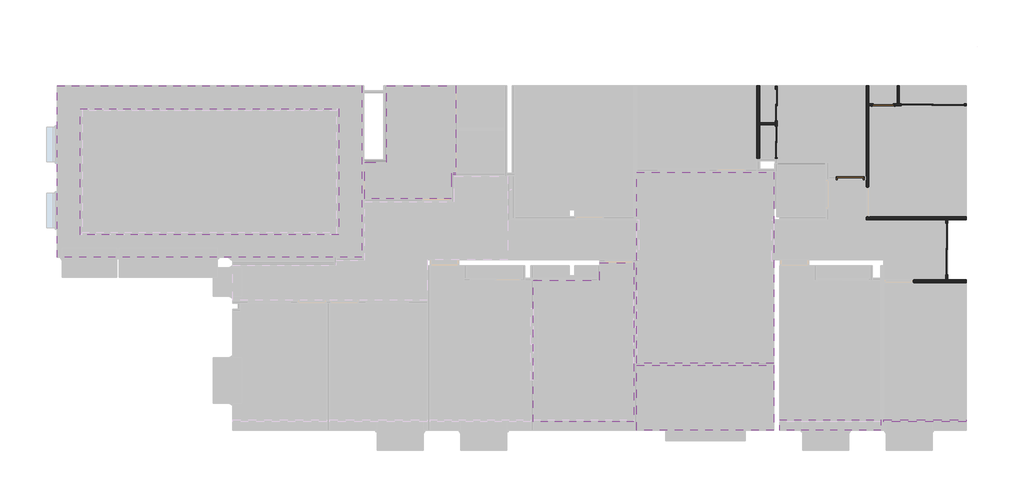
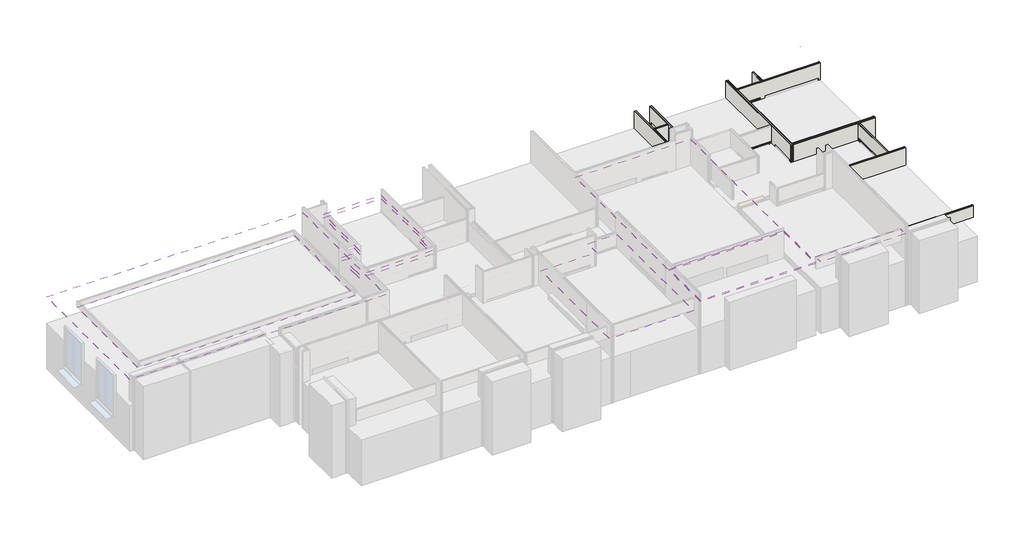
# One storey, part 4 of 6: 10 coverings, 10 walls, 6 doors.
"""IFC4 building model written with IfcOpenShell, lengths in millimetres."""

from ifc_helpers import new_model, si_unit, frame, origin, origin_with_axes, place, context, project, spatial, polyline, outline, extrude, transform, mapped, element, save
from components import door_922e83f1, door_b5ea6a65, door_9579ce56, door_bff1ae0a, door_42d56233

model = new_model("IFC4")

# Units and contexts
model_context = context("Model", 3, world=origin())
ifc_project = project(units=[si_unit("LENGTHUNIT", "METRE", prefix="MILLI")], contexts=[model_context])

# Site, building, storey
site = spatial("IfcSite", under=ifc_project)
building = spatial("IfcBuilding", under=site)
storey = spatial("IfcBuildingStorey", under=building, Name="0 Mairie RDC 0.00", Elevation=0.0)

# Coverings
placement = place(None, origin())
element("IfcCovering", 1, ObjectType="Plafonds - Plafond composé - A Plafond plaque de platre ba10", at=placement, inside=storey, context=model_context, shape_type="SweptSolid", body=[
    extrude(outline(polyline([(1777.6156007, -6633.7824715), (1777.6156007, -8731.1038426), (1127.9012584, -8731.1038426), (1127.9012584, -6633.7824715), (1777.6156007, -6633.7824715)])), frame((0.0, 0.0, 2600.0), z_axis=(0.0, 0.0, 1.0), x_axis=(1.0, 0.0, 0.0)), (0.0, 0.0, 1.0), 40.0),
    extrude(outline(polyline([(1777.6156007, -6633.7824715), (1777.6156007, -8731.1038426), (1127.9012584, -8731.1038426), (1127.9012584, -6633.7824715), (1777.6156007, -6633.7824715)])), frame((0.0, 0.0, 2640.0), z_axis=(0.0, 0.0, 1.0), x_axis=(1.0, 0.0, 0.0)), (0.0, 0.0, 1.0), 10.0),
    extrude(outline(polyline([(-20502.1562042, -13678.5662223), (-23778.2803137, -13678.5662223), (-23778.2803137, -9829.2788136), (-23520.6325674, -9829.2788136), (-23520.6325674, -9549.0775347), (-20502.1562042, -9549.0775347), (-20502.1562042, -13678.5662223)])), frame((0.0, 0.0, 2600.0), z_axis=(0.0, 0.0, 1.0), x_axis=(1.0, 0.0, 0.0)), (0.0, 0.0, 1.0), 40.0),
    extrude(outline(polyline([(-20502.1562042, -13678.5662223), (-23778.2803137, -13678.5662223), (-23778.2803137, -9829.2788136), (-23520.6325674, -9829.2788136), (-23520.6325674, -9549.0775347), (-20502.1562042, -9549.0775347), (-20502.1562042, -13678.5662223)])), frame((0.0, 0.0, 2640.0), z_axis=(0.0, 0.0, 1.0), x_axis=(1.0, 0.0, 0.0)), (0.0, 0.0, 1.0), 10.0),
    extrude(outline(polyline([(-4877.4967035, -1972.7637486), (-4877.4967035, -3257.7490792), (-5427.496701, -3257.7490792), (-5427.496701, -1972.7637486), (-4877.4967035, -1972.7637486)])), frame((0.0, 0.0, 2600.0), z_axis=(0.0, 0.0, 1.0), x_axis=(1.0, 0.0, 0.0)), (0.0, 0.0, 1.0), 40.0),
    extrude(outline(polyline([(-4877.4967035, -1972.7637486), (-4877.4967035, -3257.7490792), (-5427.496701, -3257.7490792), (-5427.496701, -1972.7637486), (-4877.4967035, -1972.7637486)])), frame((0.0, 0.0, 2640.0), z_axis=(0.0, 0.0, 1.0), x_axis=(1.0, 0.0, 0.0)), (0.0, 0.0, 1.0), 10.0),
    extrude(outline(polyline([(-4877.4967035, -3327.7490792), (-4877.4967035, -4510.805772), (-5427.496701, -4510.805772), (-5427.496701, -3327.7490792), (-4877.4967035, -3327.7490792)])), frame((0.0, 0.0, 2600.0), z_axis=(0.0, 0.0, 1.0), x_axis=(1.0, 0.0, 0.0)), (0.0, 0.0, 1.0), 40.0),
    extrude(outline(polyline([(-4877.4967035, -3327.7490792), (-4877.4967035, -4510.805772), (-5427.496701, -4510.805772), (-5427.496701, -3327.7490792), (-4877.4967035, -3327.7490792)])), frame((0.0, 0.0, 2640.0), z_axis=(0.0, 0.0, 1.0), x_axis=(1.0, 0.0, 0.0)), (0.0, 0.0, 1.0), 10.0),
    extrude(outline(polyline([(-1717.7552543, -1972.0566419), (-1717.7552543, -5137.6533676), (-3018.9176162, -5137.6533676), (-3018.9176162, -4652.7868397), (-4807.4967035, -4652.7868397), (-4807.4967035, -1972.0566419), (-1717.7552543, -1972.0566419)])), frame((0.0, 0.0, 2600.0), z_axis=(0.0, 0.0, 1.0), x_axis=(1.0, 0.0, 0.0)), (0.0, 0.0, 1.0), 40.0),
    extrude(outline(polyline([(-1717.7552543, -1972.0566419), (-1717.7552543, -5137.6533676), (-3018.9176162, -5137.6533676), (-3018.9176162, -4652.7868397), (-4807.4967035, -4652.7868397), (-4807.4967035, -1972.0566419), (-1717.7552543, -1972.0566419)])), frame((0.0, 0.0, 2640.0), z_axis=(0.0, 0.0, 1.0), x_axis=(1.0, 0.0, 0.0)), (0.0, 0.0, 1.0), 10.0),
    extrude(outline(polyline([(-634.0175894, -1972.7637486), (-634.0175894, -2602.7637486), (-1617.7552543, -2602.7637486), (-1617.7552543, -1972.7637486), (-634.0175894, -1972.7637486)])), frame((0.0, 0.0, 2600.0), z_axis=(0.0, 0.0, 1.0), x_axis=(1.0, 0.0, 0.0)), (0.0, 0.0, 1.0), 40.0),
    extrude(outline(polyline([(-634.0175894, -1972.7637486), (-634.0175894, -2602.7637486), (-1617.7552543, -2602.7637486), (-1617.7552543, -1972.7637486), (-634.0175894, -1972.7637486)])), frame((0.0, 0.0, 2640.0), z_axis=(0.0, 0.0, 1.0), x_axis=(1.0, 0.0, 0.0)), (0.0, 0.0, 1.0), 10.0),
    extrude(outline(polyline([(-1617.7552543, -2672.7637486), (1777.6156007, -2672.7637486), (1777.6156007, -6533.7824715), (-1617.7552543, -6533.7824715), (-1617.7552543, -2672.7637486)])), frame((0.0, 0.0, 2600.0), z_axis=(0.0, 0.0, 1.0), x_axis=(1.0, 0.0, 0.0)), (0.0, 0.0, 1.0), 40.0),
    extrude(outline(polyline([(-1617.7552543, -2672.7637486), (1777.6156007, -2672.7637486), (1777.6156007, -6533.7824715), (-1617.7552543, -6533.7824715), (-1617.7552543, -2672.7637486)])), frame((0.0, 0.0, 2640.0), z_axis=(0.0, 0.0, 1.0), x_axis=(1.0, 0.0, 0.0)), (0.0, 0.0, 1.0), 10.0),
    extrude(outline(polyline([(1777.6156007, -8831.1038426), (1777.6156007, -13678.5662223), (-1106.3922233, -13678.5662223), (-1106.3922233, -8831.1038426), (1777.6156007, -8831.1038426)])), frame((0.0, 0.0, 2600.0), z_axis=(0.0, 0.0, 1.0), x_axis=(1.0, 0.0, 0.0)), (0.0, 0.0, 1.0), 40.0),
    extrude(outline(polyline([(1777.6156007, -8831.1038426), (1777.6156007, -13678.5662223), (-1106.3922233, -13678.5662223), (-1106.3922233, -8831.1038426), (1777.6156007, -8831.1038426)])), frame((0.0, 0.0, 2640.0), z_axis=(0.0, 0.0, 1.0), x_axis=(1.0, 0.0, 0.0)), (0.0, 0.0, 1.0), 10.0),
    extrude(outline(polyline([(-1576.0769125, -8238.2685444), (-1576.0769125, -8681.7570094), (-3456.0406291, -8681.7570094), (-3456.0406291, -8238.2685444), (-1576.0769125, -8238.2685444)])), frame((0.0, 0.0, 2600.0), z_axis=(0.0, 0.0, 1.0), x_axis=(1.0, 0.0, 0.0)), (0.0, 0.0, 1.0), 40.0),
    extrude(outline(polyline([(-1576.0769125, -8238.2685444), (-1576.0769125, -8681.7570094), (-3456.0406291, -8681.7570094), (-3456.0406291, -8238.2685444), (-1576.0769125, -8238.2685444)])), frame((0.0, 0.0, 2640.0), z_axis=(0.0, 0.0, 1.0), x_axis=(1.0, 0.0, 0.0)), (0.0, 0.0, 1.0), 10.0),
    extrude(outline(polyline([(-3526.0406291, -8751.7570094), (-1206.3922233, -8751.7570094), (-1206.3922233, -13678.5662223), (-4727.496702, -13678.5662223), (-4727.496702, -8238.2685444), (-3526.0406291, -8238.2685444), (-3526.0406291, -8751.7570094)])), frame((0.0, 0.0, 2600.0), z_axis=(0.0, 0.0, 1.0), x_axis=(1.0, 0.0, 0.0)), (0.0, 0.0, 1.0), 40.0),
    extrude(outline(polyline([(-3526.0406291, -8751.7570094), (-1206.3922233, -8751.7570094), (-1206.3922233, -13678.5662223), (-4727.496702, -13678.5662223), (-4727.496702, -8238.2685444), (-3526.0406291, -8238.2685444), (-3526.0406291, -8751.7570094)])), frame((0.0, 0.0, 2640.0), z_axis=(0.0, 0.0, 1.0), x_axis=(1.0, 0.0, 0.0)), (0.0, 0.0, 1.0), 10.0),
    extrude(outline(polyline([(-564.0175894, -1972.7637486), (1777.6156007, -1972.7637486), (1777.6156007, -2602.7637486), (-564.0175894, -2602.7637486), (-564.0175894, -1972.7637486)])), frame((0.0, 0.0, 2600.0), z_axis=(0.0, 0.0, 1.0), x_axis=(1.0, 0.0, 0.0)), (0.0, 0.0, 1.0), 40.0),
    extrude(outline(polyline([(-564.0175894, -1972.7637486), (1777.6156007, -1972.7637486), (1777.6156007, -2602.7637486), (-564.0175894, -2602.7637486), (-564.0175894, -1972.7637486)])), frame((0.0, 0.0, 2640.0), z_axis=(0.0, 0.0, 1.0), x_axis=(1.0, 0.0, 0.0)), (0.0, 0.0, 1.0), 10.0),
    extrude(outline(polyline([(-5527.496701, -1972.7637486), (-5527.496701, -4878.2154166), (-9708.4471465, -4878.2154166), (-9708.4471465, -1972.7637486), (-5527.496701, -1972.7637486)])), frame((0.0, 0.0, 2600.0), z_axis=(0.0, 0.0, 1.0), x_axis=(1.0, 0.0, 0.0)), (0.0, 0.0, 1.0), 40.0),
    extrude(outline(polyline([(-5527.496701, -1972.7637486), (-5527.496701, -4878.2154166), (-9708.4471465, -4878.2154166), (-9708.4471465, -1972.7637486), (-5527.496701, -1972.7637486)])), frame((0.0, 0.0, 2640.0), z_axis=(0.0, 0.0, 1.0), x_axis=(1.0, 0.0, 0.0)), (0.0, 0.0, 1.0), 10.0),
    extrude(outline(polyline([(-9808.4471465, -1972.7637486), (-9808.4471465, -6532.5340392), (-13736.6269046, -6532.5340392), (-13736.6269046, -1972.7637486), (-9808.4471465, -1972.7637486)])), frame((0.0, 0.0, 2600.0), z_axis=(0.0, 0.0, 1.0), x_axis=(1.0, 0.0, 0.0)), (0.0, 0.0, 1.0), 40.0),
    extrude(outline(polyline([(-9808.4471465, -1972.7637486), (-9808.4471465, -6532.5340392), (-13736.6269046, -6532.5340392), (-13736.6269046, -1972.7637486), (-9808.4471465, -1972.7637486)])), frame((0.0, 0.0, 2640.0), z_axis=(0.0, 0.0, 1.0), x_axis=(1.0, 0.0, 0.0)), (0.0, 0.0, 1.0), 10.0),
    extrude(outline(polyline([(-11003.1086334, -8752.6130855), (-11003.1086334, -8132.7867091), (-9804.6455383, -8132.7867091), (-9804.6455383, -13678.5662223), (-13304.255006, -13678.5662223), (-13304.255006, -8752.6130855), (-11003.1086334, -8752.6130855)])), frame((0.0, 0.0, 2600.0), z_axis=(0.0, 0.0, 1.0), x_axis=(1.0, 0.0, 0.0)), (0.0, 0.0, 1.0), 40.0),
    extrude(outline(polyline([(-11003.1086334, -8752.6130855), (-11003.1086334, -8132.7867091), (-9804.6455383, -8132.7867091), (-9804.6455383, -13678.5662223), (-13304.255006, -13678.5662223), (-13304.255006, -8752.6130855), (-11003.1086334, -8752.6130855)])), frame((0.0, 0.0, 2640.0), z_axis=(0.0, 0.0, 1.0), x_axis=(1.0, 0.0, 0.0)), (0.0, 0.0, 1.0), 10.0),
    extrude(outline(polyline([(-13404.255006, -13678.5662223), (-16905.446161, -13678.5662223), (-16905.446161, -8232.7637435), (-15705.446161, -8232.7637435), (-15705.446161, -8752.779598), (-13404.255006, -8752.779598), (-13404.255006, -13678.5662223)])), frame((0.0, 0.0, 2600.0), z_axis=(0.0, 0.0, 1.0), x_axis=(1.0, 0.0, 0.0)), (0.0, 0.0, 1.0), 40.0),
    extrude(outline(polyline([(-13404.255006, -13678.5662223), (-16905.446161, -13678.5662223), (-16905.446161, -8232.7637435), (-15705.446161, -8232.7637435), (-15705.446161, -8752.779598), (-13404.255006, -8752.779598), (-13404.255006, -13678.5662223)])), frame((0.0, 0.0, 2640.0), z_axis=(0.0, 0.0, 1.0), x_axis=(1.0, 0.0, 0.0)), (0.0, 0.0, 1.0), 10.0),
    extrude(outline(polyline([(-17005.446161, -9549.0775347), (-17005.446161, -13678.5662223), (-20402.1562042, -13678.5662223), (-20402.1562042, -9549.0775347), (-17005.446161, -9549.0775347)])), frame((0.0, 0.0, 2600.0), z_axis=(0.0, 0.0, 1.0), x_axis=(1.0, 0.0, 0.0)), (0.0, 0.0, 1.0), 40.0),
    extrude(outline(polyline([(-17005.446161, -9549.0775347), (-17005.446161, -13678.5662223), (-20402.1562042, -13678.5662223), (-20402.1562042, -9549.0775347), (-17005.446161, -9549.0775347)])), frame((0.0, 0.0, 2640.0), z_axis=(0.0, 0.0, 1.0), x_axis=(1.0, 0.0, 0.0)), (0.0, 0.0, 1.0), 10.0),
    extrude(outline(polyline([(-3118.9176162, -4722.7868397), (-3118.9176162, -6533.7824715), (-4727.496702, -6533.7824715), (-4727.496702, -6233.7824715), (-4827.496702, -6233.7824715), (-4827.496702, -4722.7868397), (-3118.9176162, -4722.7868397)])), frame((0.0, 0.0, 2600.0), z_axis=(0.0, 0.0, 1.0), x_axis=(1.0, 0.0, 0.0)), (0.0, 0.0, 1.0), 40.0),
    extrude(outline(polyline([(-3118.9176162, -4722.7868397), (-3118.9176162, -6533.7824715), (-4727.496702, -6533.7824715), (-4727.496702, -6233.7824715), (-4827.496702, -6233.7824715), (-4827.496702, -4722.7868397), (-3118.9176162, -4722.7868397)])), frame((0.0, 0.0, 2640.0), z_axis=(0.0, 0.0, 1.0), x_axis=(1.0, 0.0, 0.0)), (0.0, 0.0, 1.0), 10.0),
    extrude(outline(polyline([(-11073.1086334, -8232.7637435), (-11073.1086334, -8682.6130855), (-13304.255006, -8682.6130855), (-13304.255006, -8232.7637435), (-11073.1086334, -8232.7637435)])), frame((0.0, 0.0, 2600.0), z_axis=(0.0, 0.0, 1.0), x_axis=(1.0, 0.0, 0.0)), (0.0, 0.0, 1.0), 40.0),
    extrude(outline(polyline([(-11073.1086334, -8232.7637435), (-11073.1086334, -8682.6130855), (-13304.255006, -8682.6130855), (-13304.255006, -8232.7637435), (-11073.1086334, -8232.7637435)])), frame((0.0, 0.0, 2640.0), z_axis=(0.0, 0.0, 1.0), x_axis=(1.0, 0.0, 0.0)), (0.0, 0.0, 1.0), 10.0),
    extrude(outline(polyline([(-13671.849822, -8232.7637435), (-13671.849822, -8682.779598), (-15635.446161, -8682.779598), (-15635.446161, -8232.7637435), (-13671.849822, -8232.7637435)])), frame((0.0, 0.0, 2600.0), z_axis=(0.0, 0.0, 1.0), x_axis=(1.0, 0.0, 0.0)), (0.0, 0.0, 1.0), 40.0),
    extrude(outline(polyline([(-13671.849822, -8232.7637435), (-13671.849822, -8682.779598), (-15635.446161, -8682.779598), (-15635.446161, -8232.7637435), (-13671.849822, -8232.7637435)])), frame((0.0, 0.0, 2640.0), z_axis=(0.0, 0.0, 1.0), x_axis=(1.0, 0.0, 0.0)), (0.0, 0.0, 1.0), 10.0),
])
element("IfcCovering", 2, ObjectType="Plafonds - Plafond composé - A Plafond plaque de platre ba10 (1)", at=placement, inside=storey, context=model_context, shape_type="SweptSolid", body=[
    extrude(outline(polyline([(-4927.496702, -4978.2154166), (-4927.496702, -11628.5833837), (-9708.4471465, -11628.5833837), (-9708.4471465, -4978.2154166), (-4927.496702, -4978.2154166)])), frame((0.0, 0.0, 3150.0), z_axis=(0.0, 0.0, 1.0), x_axis=(1.0, 0.0, 0.0)), (0.0, 0.0, 1.0), 40.0),
    extrude(outline(polyline([(-4927.496702, -4978.2154166), (-4927.496702, -11628.5833837), (-9708.4471465, -11628.5833837), (-9708.4471465, -4978.2154166), (-4927.496702, -4978.2154166)])), frame((0.0, 0.0, 3190.0), z_axis=(0.0, 0.0, 1.0), x_axis=(1.0, 0.0, 0.0)), (0.0, 0.0, 1.0), 10.0),
])
element("IfcCovering", 3, ObjectType="Plafonds - Plafond composé - A Plafond plaque de platre ba10 (2)", at=placement, inside=storey, context=model_context, shape_type="SweptSolid", body=[
    extrude(outline(polyline([(-18412.1823363, -1972.7637486), (-16015.9503686, -1972.7637486), (-16015.9503686, -5069.9219201), (-16166.6269046, -5069.9219201), (-16166.6269046, -5912.7637435), (-19182.1823363, -5912.7637435), (-19182.1823363, -4642.5867558), (-18412.1823363, -4642.5867558), (-18412.1823363, -1972.7637486)])), frame((0.0, 0.0, 2750.0), z_axis=(0.0, 0.0, 1.0), x_axis=(1.0, 0.0, 0.0)), (0.0, 0.0, 1.0), 40.0),
    extrude(outline(polyline([(-18412.1823363, -1972.7637486), (-16015.9503686, -1972.7637486), (-16015.9503686, -5069.9219201), (-16166.6269046, -5069.9219201), (-16166.6269046, -5912.7637435), (-19182.1823363, -5912.7637435), (-19182.1823363, -4642.5867558), (-18412.1823363, -4642.5867558), (-18412.1823363, -1972.7637486)])), frame((0.0, 0.0, 2790.0), z_axis=(0.0, 0.0, 1.0), x_axis=(1.0, 0.0, 0.0)), (0.0, 0.0, 1.0), 10.0),
])
element("IfcCovering", 4, ObjectType="Plafonds - Plafond composé - A Plafond plaque de platre ba10 (3)", at=placement, inside=storey, context=model_context, shape_type="SweptSolid", body=[
    extrude(outline(polyline([(-18412.1823363, -1972.7637486), (-16015.9503686, -1972.7637486), (-16015.9503686, -5069.9219201), (-16166.6269046, -5069.9219201), (-16166.6269046, -5912.7637435), (-19182.1823363, -5912.7637435), (-19182.1823363, -4642.5867558), (-18412.1823363, -4642.5867558), (-18412.1823363, -1972.7637486)])), frame((0.0, 0.0, 2750.0), z_axis=(0.0, 0.0, 1.0), x_axis=(1.0, 0.0, 0.0)), (0.0, 0.0, 1.0), 40.0),
    extrude(outline(polyline([(-18412.1823363, -1972.7637486), (-16015.9503686, -1972.7637486), (-16015.9503686, -5069.9219201), (-16166.6269046, -5069.9219201), (-16166.6269046, -5912.7637435), (-19182.1823363, -5912.7637435), (-19182.1823363, -4642.5867558), (-18412.1823363, -4642.5867558), (-18412.1823363, -1972.7637486)])), frame((0.0, 0.0, 2790.0), z_axis=(0.0, 0.0, 1.0), x_axis=(1.0, 0.0, 0.0)), (0.0, 0.0, 1.0), 10.0),
    extrude(outline(polyline([(-18512.1823363, -2222.7637486), (-18512.1823363, -4543.7637486), (-19212.1823363, -4543.7637486), (-19212.1823363, -2222.7637486), (-18512.1823363, -2222.7637486)])), frame((0.0, 0.0, 2750.0), z_axis=(0.0, 0.0, 1.0), x_axis=(1.0, 0.0, 0.0)), (0.0, 0.0, 1.0), 40.0),
    extrude(outline(polyline([(-18512.1823363, -2222.7637486), (-18512.1823363, -4543.7637486), (-19212.1823363, -4543.7637486), (-19212.1823363, -2222.7637486), (-18512.1823363, -2222.7637486)])), frame((0.0, 0.0, 2790.0), z_axis=(0.0, 0.0, 1.0), x_axis=(1.0, 0.0, 0.0)), (0.0, 0.0, 1.0), 10.0),
])
element("IfcCovering", 5, ObjectType="Plafonds - Plafond composé - A Plafond plaque de platre ba10 (4)", at=placement, inside=storey, context=model_context, shape_type="SweptSolid", body=[
    extrude(outline(polyline([(-14296.7760862, -3451.3428344), (-15945.9503686, -3451.3428344), (-15945.9503686, -1972.7637486), (-14296.7760862, -1972.7637486), (-14296.7760862, -3451.3428344)])), frame((0.0, 0.0, 2600.0), z_axis=(0.0, 0.0, 1.0), x_axis=(1.0, 0.0, 0.0)), (0.0, 0.0, 1.0), 40.0),
    extrude(outline(polyline([(-14296.7760862, -3451.3428344), (-15945.9503686, -3451.3428344), (-15945.9503686, -1972.7637486), (-14296.7760862, -1972.7637486), (-14296.7760862, -3451.3428344)])), frame((0.0, 0.0, 2640.0), z_axis=(0.0, 0.0, 1.0), x_axis=(1.0, 0.0, 0.0)), (0.0, 0.0, 1.0), 10.0),
    extrude(outline(polyline([(-16015.9503686, -1972.7637486), (-16015.9503686, -5019.9219201), (-16166.6269046, -5019.9219201), (-16166.6269046, -5912.7637435), (-19182.1823363, -5912.7637435), (-19182.1823363, -4642.5867558), (-18412.1823363, -4642.5867558), (-18412.1823363, -1972.7637486), (-16015.9503686, -1972.7637486)])), frame((0.0, 0.0, 2600.0), z_axis=(0.0, 0.0, 1.0), x_axis=(1.0, 0.0, 0.0)), (0.0, 0.0, 1.0), 40.0),
    extrude(outline(polyline([(-16015.9503686, -1972.7637486), (-16015.9503686, -5019.9219201), (-16166.6269046, -5019.9219201), (-16166.6269046, -5912.7637435), (-19182.1823363, -5912.7637435), (-19182.1823363, -4642.5867558), (-18412.1823363, -4642.5867558), (-18412.1823363, -1972.7637486), (-16015.9503686, -1972.7637486)])), frame((0.0, 0.0, 2640.0), z_axis=(0.0, 0.0, 1.0), x_axis=(1.0, 0.0, 0.0)), (0.0, 0.0, 1.0), 10.0),
    extrude(outline(polyline([(-15945.9503686, -3521.3428344), (-14296.7760862, -3521.3428344), (-14296.7760862, -5019.9219201), (-15945.9503686, -5019.9219201), (-15945.9503686, -3521.3428344)])), frame((0.0, 0.0, 2600.0), z_axis=(0.0, 0.0, 1.0), x_axis=(1.0, 0.0, 0.0)), (0.0, 0.0, 1.0), 40.0),
    extrude(outline(polyline([(-15945.9503686, -3521.3428344), (-14296.7760862, -3521.3428344), (-14296.7760862, -5019.9219201), (-15945.9503686, -5019.9219201), (-15945.9503686, -3521.3428344)])), frame((0.0, 0.0, 2640.0), z_axis=(0.0, 0.0, 1.0), x_axis=(1.0, 0.0, 0.0)), (0.0, 0.0, 1.0), 10.0),
])
element("IfcCovering", 6, ObjectType="Plafonds - Plafond composé - A Plafond plaque de platre ba10 (6)", at=placement, inside=storey, context=model_context, shape_type="SweptSolid", body=[
    extrude(outline(polyline([(-29087.0149756, -7153.0211289), (-29087.0149756, -2772.7637486), (-20082.1823363, -2772.7637486), (-20082.1823363, -7153.0211289), (-29087.0149756, -7153.0211289)])), frame((0.0, 0.0, 2900.0), z_axis=(0.0, 0.0, 1.0), x_axis=(1.0, 0.0, 0.0)), (0.0, 0.0, 1.0), 40.0),
    extrude(outline(polyline([(-29087.0149756, -7153.0211289), (-29087.0149756, -2772.7637486), (-20082.1823363, -2772.7637486), (-20082.1823363, -7153.0211289), (-29087.0149756, -7153.0211289)])), frame((0.0, 0.0, 2940.0), z_axis=(0.0, 0.0, 1.0), x_axis=(1.0, 0.0, 0.0)), (0.0, 0.0, 1.0), 10.0),
])
element("IfcCovering", 7, ObjectType="Plafonds - Plafond composé - A Plafond plaque de platre ba10 (7)", at=placement, inside=storey, context=model_context, shape_type="SweptSolid", body=[
    extrude(outline(polyline([(-19282.1823363, -1972.7637486), (-19282.1823363, -7952.7608719), (-29887.0149756, -7952.7608719), (-29887.0149756, -1972.7637486), (-19282.1823363, -1972.7637486)]), holes=[polyline([(-20082.1823363, -2772.7637486), (-29087.0149756, -2772.7637486), (-29087.0149756, -7152.7608719), (-20082.1823363, -7152.7608719), (-20082.1823363, -2772.7637486)])]), frame((0.0, 0.0, 3150.0), z_axis=(0.0, 0.0, 1.0), x_axis=(1.0, 0.0, 0.0)), (0.0, 0.0, 1.0), 40.0),
    extrude(outline(polyline([(-19282.1823363, -1972.7637486), (-19282.1823363, -7952.7608719), (-29887.0149756, -7952.7608719), (-29887.0149756, -1972.7637486), (-19282.1823363, -1972.7637486)]), holes=[polyline([(-20082.1823363, -2772.7637486), (-29087.0149756, -2772.7637486), (-29087.0149756, -7152.7608719), (-20082.1823363, -7152.7608719), (-20082.1823363, -2772.7637486)])]), frame((0.0, 0.0, 3190.0), z_axis=(0.0, 0.0, 1.0), x_axis=(1.0, 0.0, 0.0)), (0.0, 0.0, 1.0), 10.0),
])
element("IfcCovering", 8, ObjectType="Plafonds - Plafond composé - A Plafond plaque de platre ba10 (8)", at=placement, inside=storey, context=model_context, shape_type="SweptSolid", body=[
    extrude(outline(polyline([(1777.6156007, -13978.5662223), (-1106.3922233, -13978.5662223), (-1106.3922233, -13608.5662223), (1777.6156007, -13608.5662223), (1777.6156007, -13978.5662223)])), frame((0.0, 0.0, 3150.0), z_axis=(0.0, 0.0, 1.0), x_axis=(1.0, 0.0, 0.0)), (0.0, 0.0, 1.0), 40.0),
    extrude(outline(polyline([(1777.6156007, -13978.5662223), (-1106.3922233, -13978.5662223), (-1106.3922233, -13608.5662223), (1777.6156007, -13608.5662223), (1777.6156007, -13978.5662223)])), frame((0.0, 0.0, 3190.0), z_axis=(0.0, 0.0, 1.0), x_axis=(1.0, 0.0, 0.0)), (0.0, 0.0, 1.0), 10.0),
    extrude(outline(polyline([(-20502.1562042, -13978.5662223), (-23778.2803137, -13978.5662223), (-23778.2803137, -13608.5662223), (-20502.1562042, -13608.5662223), (-20502.1562042, -13978.5662223)])), frame((0.0, 0.0, 3150.0), z_axis=(0.0, 0.0, 1.0), x_axis=(1.0, 0.0, 0.0)), (0.0, 0.0, 1.0), 40.0),
    extrude(outline(polyline([(-20502.1562042, -13978.5662223), (-23778.2803137, -13978.5662223), (-23778.2803137, -13608.5662223), (-20502.1562042, -13608.5662223), (-20502.1562042, -13978.5662223)])), frame((0.0, 0.0, 3190.0), z_axis=(0.0, 0.0, 1.0), x_axis=(1.0, 0.0, 0.0)), (0.0, 0.0, 1.0), 10.0),
    extrude(outline(polyline([(-17005.446161, -13978.5662223), (-20402.1562042, -13978.5662223), (-20402.1562042, -13608.5662223), (-17005.446161, -13608.5662223), (-17005.446161, -13978.5662223)])), frame((0.0, 0.0, 3150.0), z_axis=(0.0, 0.0, 1.0), x_axis=(1.0, 0.0, 0.0)), (0.0, 0.0, 1.0), 40.0),
    extrude(outline(polyline([(-17005.446161, -13978.5662223), (-20402.1562042, -13978.5662223), (-20402.1562042, -13608.5662223), (-17005.446161, -13608.5662223), (-17005.446161, -13978.5662223)])), frame((0.0, 0.0, 3190.0), z_axis=(0.0, 0.0, 1.0), x_axis=(1.0, 0.0, 0.0)), (0.0, 0.0, 1.0), 10.0),
    extrude(outline(polyline([(-13404.255006, -13978.5662223), (-16905.446161, -13978.5662223), (-16905.446161, -13608.5662223), (-13404.255006, -13608.5662223), (-13404.255006, -13978.5662223)])), frame((0.0, 0.0, 3150.0), z_axis=(0.0, 0.0, 1.0), x_axis=(1.0, 0.0, 0.0)), (0.0, 0.0, 1.0), 40.0),
    extrude(outline(polyline([(-13404.255006, -13978.5662223), (-16905.446161, -13978.5662223), (-16905.446161, -13608.5662223), (-13404.255006, -13608.5662223), (-13404.255006, -13978.5662223)])), frame((0.0, 0.0, 3190.0), z_axis=(0.0, 0.0, 1.0), x_axis=(1.0, 0.0, 0.0)), (0.0, 0.0, 1.0), 10.0),
    extrude(outline(polyline([(-9804.6455383, -13978.5662223), (-13304.255006, -13978.5662223), (-13304.255006, -13608.5662223), (-9804.6455383, -13608.5662223), (-9804.6455383, -13978.5662223)])), frame((0.0, 0.0, 3150.0), z_axis=(0.0, 0.0, 1.0), x_axis=(1.0, 0.0, 0.0)), (0.0, 0.0, 1.0), 40.0),
    extrude(outline(polyline([(-9804.6455383, -13978.5662223), (-13304.255006, -13978.5662223), (-13304.255006, -13608.5662223), (-9804.6455383, -13608.5662223), (-9804.6455383, -13978.5662223)])), frame((0.0, 0.0, 3190.0), z_axis=(0.0, 0.0, 1.0), x_axis=(1.0, 0.0, 0.0)), (0.0, 0.0, 1.0), 10.0),
    extrude(outline(polyline([(-1206.3922233, -13978.5662223), (-4727.496702, -13978.5662223), (-4727.496702, -13608.5662223), (-1206.3922233, -13608.5662223), (-1206.3922233, -13978.5662223)])), frame((0.0, 0.0, 3150.0), z_axis=(0.0, 0.0, 1.0), x_axis=(1.0, 0.0, 0.0)), (0.0, 0.0, 1.0), 40.0),
    extrude(outline(polyline([(-1206.3922233, -13978.5662223), (-4727.496702, -13978.5662223), (-4727.496702, -13608.5662223), (-1206.3922233, -13608.5662223), (-1206.3922233, -13978.5662223)])), frame((0.0, 0.0, 3190.0), z_axis=(0.0, 0.0, 1.0), x_axis=(1.0, 0.0, 0.0)), (0.0, 0.0, 1.0), 10.0),
])
element("IfcCovering", 9, ObjectType="Plafonds - Plafond composé - A Plafond plaque de platre ba10 (9)", at=placement, inside=storey, context=model_context, shape_type="SweptSolid", body=[
    extrude(outline(polyline([(-9704.6455383, -13978.5662223), (-9704.6455383, -11698.5833837), (-4927.496702, -11698.5833837), (-4927.496702, -13978.5662223), (-9704.6455383, -13978.5662223)])), frame((0.0, 0.0, 3150.0), z_axis=(0.0, 0.0, 1.0), x_axis=(1.0, 0.0, 0.0)), (0.0, 0.0, 1.0), 40.0),
    extrude(outline(polyline([(-9704.6455383, -13978.5662223), (-9704.6455383, -11698.5833837), (-4927.496702, -11698.5833837), (-4927.496702, -13978.5662223), (-9704.6455383, -13978.5662223)])), frame((0.0, 0.0, 3190.0), z_axis=(0.0, 0.0, 1.0), x_axis=(1.0, 0.0, 0.0)), (0.0, 0.0, 1.0), 10.0),
])
element("IfcCovering", 10, ObjectType="Plafonds - Plafond composé - A Plafond plaque de platre ba10 (10)", at=placement, inside=storey, context=model_context, shape_type="SweptSolid", body=[
    extrude(outline(polyline([(-4927.496702, -11698.5833837), (-4927.496702, -13978.5662223), (-9704.6455383, -13978.5662223), (-9704.6455383, -11698.5833837), (-4927.496702, -11698.5833837)])), frame((0.0, 0.0, 3200.0), z_axis=(0.0, 0.0, 1.0), x_axis=(1.0, 0.0, 0.0)), (0.0, 0.0, 1.0), 40.0),
    extrude(outline(polyline([(-4927.496702, -11698.5833837), (-4927.496702, -13978.5662223), (-9704.6455383, -13978.5662223), (-9704.6455383, -11698.5833837), (-4927.496702, -11698.5833837)])), frame((0.0, 0.0, 3240.0), z_axis=(0.0, 0.0, 1.0), x_axis=(1.0, 0.0, 0.0)), (0.0, 0.0, 1.0), 10.0),
])

# Doors
door_shape = door_922e83f1(model_context)
element("IfcDoor", 11, ObjectType="Portes - Int. Simple - PP (0.89m x 2.04m) (1)", at=placement, inside=storey, context=model_context, shape_type="MappedRepresentation", body=[
    mapped(door_shape, transform((-1697.7552543, -5137.6533676, 0.0), x_axis=(-1.0, 0.0, 0.0), y_axis=(0.0, -1.0, 0.0), z_axis=(0.0, 0.0, 1.0))),
])
door_2_shape = door_b5ea6a65(model_context)
element("IfcDoor", 12, ObjectType="Portes - Placard coulissante - 2 panneaux - Placard coulissante - 2 panneaux 1.80", at=placement, inside=storey, context=model_context, shape_type="MappedRepresentation", body=[
    mapped(door_2_shape, transform((1057.9012584, -6757.443157, 0.0), x_axis=(0.0, -1.0, 0.0), y_axis=(1.0, 0.0, 0.0), z_axis=(0.0, 0.0, 1.0))),
])
door_3_shape = door_9579ce56(model_context)
element("IfcDoor", 13, ObjectType="Portes - Placard coulissante - 2 panneaux - Placard coulissante - 2 panneaux 2.20", at=placement, inside=storey, context=model_context, shape_type="MappedRepresentation", body=[
    mapped(door_3_shape, transform((1700.9824106, -2602.7637486, 0.0), x_axis=(-1.0, 0.0, 0.0), y_axis=(0.0, -1.0, 0.0), z_axis=(0.0, 0.0, 1.0))),
])
door_4_shape = door_bff1ae0a(model_context)
element("IfcDoor", 14, ObjectType="Portes - Int. Simple - PP (0.73m x 2.04m)", at=placement, inside=storey, context=model_context, shape_type="MappedRepresentation", body=[
    mapped(door_4_shape, transform((-1595.8864219, -2672.7637486, 0.0), x_axis=(1.0, 0.0, 0.0), y_axis=(0.0, 1.0, 0.0), z_axis=(0.0, 0.0, 1.0))),
])
door_5_shape = door_42d56233(model_context)
element("IfcDoor", 15, ObjectType="Portes - Placard coulissante - 2 panneaux - Placard coulissante - 2 panneaux 1.10", at=placement, inside=storey, context=model_context, shape_type="MappedRepresentation", body=[
    mapped(door_5_shape, transform((-4807.4967035, -3189.805772, 0.0), x_axis=(0.0, 1.0, 0.0), y_axis=(-1.0, 0.0, 0.0), z_axis=(0.0, 0.0, 1.0))),
])
element("IfcDoor", 16, ObjectType="Portes - Placard coulissante - 2 panneaux - Placard coulissante - 2 panneaux 1.10", at=placement, inside=storey, context=model_context, shape_type="MappedRepresentation", body=[
    mapped(door_5_shape, transform((-4877.4967035, -3377.5549021, 0.0), x_axis=(0.0, -1.0, 0.0), y_axis=(1.0, 0.0, 0.0), z_axis=(0.0, 0.0, 1.0))),
])

# Walls
element("IfcWall", 17, ObjectType="Murs - Mur de base - A cloison placostil 98 sèche", at=placement, inside=storey, context=model_context, shape_type="SweptSolid", body=[
    extrude(outline(polyline([(-5527.496701, -4510.805772), (-5527.496701, -1972.7637486), (-5514.996701, -1972.7637486), (-5514.996701, -4510.805772), (-5527.496701, -4510.805772)])), origin_with_axes(), (0.0, 0.0, 1.0), 2750.0),
    extrude(outline(polyline([(-5514.996701, -4510.805772), (-5514.996701, -1972.7637486), (-5502.496701, -1972.7637486), (-5502.496701, -4510.805772), (-5514.996701, -4510.805772)])), origin_with_axes(), (0.0, 0.0, 1.0), 2750.0),
    extrude(outline(polyline([(-5502.496701, -4510.805772), (-5502.496701, -1972.7637486), (-5452.496701, -1972.7637486), (-5452.496701, -4510.805772), (-5502.496701, -4510.805772)])), origin_with_axes(), (0.0, 0.0, 1.0), 2750.0),
    extrude(outline(polyline([(-5452.496701, -4510.805772), (-5452.496701, -1972.7637486), (-5439.996701, -1972.7637486), (-5439.996701, -4510.805772), (-5452.496701, -4510.805772)])), origin_with_axes(), (0.0, 0.0, 1.0), 2750.0),
    extrude(outline(polyline([(-5439.996701, -4510.805772), (-5439.996701, -1972.7637486), (-5427.496701, -1972.7637486), (-5427.496701, -4510.805772), (-5439.996701, -4510.805772)])), origin_with_axes(), (0.0, 0.0, 1.0), 2750.0),
])
element("IfcWall", 18, ObjectType="Murs - Mur de base - A cloison placostil 72 sèche", at=placement, inside=storey, context=model_context, shape_type="SweptSolid", body=[
    extrude(outline(polyline([(-4510.805772, 2750.0), (-1987.805772, 2750.0), (-1987.805772, 0.0), (-2089.805772, 0.0), (-2089.805772, 2100.0), (-3189.805772, 2100.0), (-3189.805772, 0.0), (-3377.5549021, 0.0), (-3377.5549021, 2100.0), (-4477.5549021, 2100.0), (-4477.5549021, 0.0), (-4510.805772, 0.0), (-4510.805772, 2750.0)])), frame((-4877.4967035, 0.0, 0.0), z_axis=(1.0, 0.0, 0.0), x_axis=(0.0, 1.0, 0.0)), (0.0, 0.0, 1.0), 10.0),
    extrude(outline(polyline([(-4510.805772, 2750.0), (-1987.805772, 2750.0), (-1987.805772, 0.0), (-2089.805772, 0.0), (-2089.805772, 2100.0), (-3189.805772, 2100.0), (-3189.805772, 0.0), (-3377.5549021, 0.0), (-3377.5549021, 2100.0), (-4477.5549021, 2100.0), (-4477.5549021, 0.0), (-4510.805772, 0.0), (-4510.805772, 2750.0)])), frame((-4867.4967035, 0.0, 0.0), z_axis=(1.0, 0.0, 0.0), x_axis=(0.0, 1.0, 0.0)), (0.0, 0.0, 1.0), 50.0),
    extrude(outline(polyline([(-4510.805772, 2750.0), (-1987.805772, 2750.0), (-1987.805772, 0.0), (-2089.805772, 0.0), (-2089.805772, 2100.0), (-3189.805772, 2100.0), (-3189.805772, 0.0), (-3377.5549021, 0.0), (-3377.5549021, 2100.0), (-4477.5549021, 2100.0), (-4477.5549021, 0.0), (-4510.805772, 0.0), (-4510.805772, 2750.0)])), frame((-4817.4967035, 0.0, 0.0), z_axis=(1.0, 0.0, 0.0), x_axis=(0.0, 1.0, 0.0)), (0.0, 0.0, 1.0), 10.0),
])
element("IfcWall", 19, ObjectType="Murs - Mur de base - A cloison placostil 98 sèche", at=placement, inside=storey, context=model_context, shape_type="SweptSolid", body=[
    extrude(outline(polyline([(-6633.7824715, 2750.0), (-1972.7637486, 2750.0), (-1972.7637486, 0.0), (-5518.7824715, 0.0), (-5518.7824715, 2075.0), (-6518.7824715, 2075.0), (-6518.7824715, 0.0), (-6633.7824715, 0.0), (-6633.7824715, 2750.0)])), frame((-1717.7552543, 0.0, 0.0), z_axis=(1.0, 0.0, 0.0), x_axis=(0.0, 1.0, 0.0)), (0.0, 0.0, 1.0), 12.5),
    extrude(outline(polyline([(-6633.7824715, 2750.0), (-1972.7637486, 2750.0), (-1972.7637486, 0.0), (-5518.7824715, 0.0), (-5518.7824715, 2075.0), (-6518.7824715, 2075.0), (-6518.7824715, 0.0), (-6633.7824715, 0.0), (-6633.7824715, 2750.0)])), frame((-1705.2552543, 0.0, 0.0), z_axis=(1.0, 0.0, 0.0), x_axis=(0.0, 1.0, 0.0)), (0.0, 0.0, 1.0), 12.5),
    extrude(outline(polyline([(-6633.7824715, 2750.0), (-1972.7637486, 2750.0), (-1972.7637486, 0.0), (-5518.7824715, 0.0), (-5518.7824715, 2075.0), (-6518.7824715, 2075.0), (-6518.7824715, 0.0), (-6633.7824715, 0.0), (-6633.7824715, 2750.0)])), frame((-1692.7552543, 0.0, 0.0), z_axis=(1.0, 0.0, 0.0), x_axis=(0.0, 1.0, 0.0)), (0.0, 0.0, 1.0), 50.0),
    extrude(outline(polyline([(-6633.7824715, 2750.0), (-1972.7637486, 2750.0), (-1972.7637486, 0.0), (-5518.7824715, 0.0), (-5518.7824715, 2075.0), (-6518.7824715, 2075.0), (-6518.7824715, 0.0), (-6633.7824715, 0.0), (-6633.7824715, 2750.0)])), frame((-1642.7552543, 0.0, 0.0), z_axis=(1.0, 0.0, 0.0), x_axis=(0.0, 1.0, 0.0)), (0.0, 0.0, 1.0), 12.5),
    extrude(outline(polyline([(-6633.7824715, 2750.0), (-1972.7637486, 2750.0), (-1972.7637486, 0.0), (-5518.7824715, 0.0), (-5518.7824715, 2075.0), (-6518.7824715, 2075.0), (-6518.7824715, 0.0), (-6633.7824715, 0.0), (-6633.7824715, 2750.0)])), frame((-1630.2552543, 0.0, 0.0), z_axis=(1.0, 0.0, 0.0), x_axis=(0.0, 1.0, 0.0)), (0.0, 0.0, 1.0), 12.5),
])
element("IfcWall", 20, ObjectType="Murs - Mur de base - A cloison placostil 72 sèche", at=placement, inside=storey, context=model_context, shape_type="SweptSolid", body=[
    extrude(outline(polyline([(-5427.496701, -3257.7490792), (-4877.4967035, -3257.7490792), (-4877.4967035, -3267.7490792), (-5427.496701, -3267.7490792), (-5427.496701, -3257.7490792)])), origin_with_axes(), (0.0, 0.0, 1.0), 2750.0),
    extrude(outline(polyline([(-5427.496701, -3267.7490792), (-4877.4967035, -3267.7490792), (-4877.4967035, -3317.7490792), (-5427.496701, -3317.7490792), (-5427.496701, -3267.7490792)])), origin_with_axes(), (0.0, 0.0, 1.0), 2750.0),
    extrude(outline(polyline([(-5427.496701, -3317.7490792), (-4877.4967035, -3317.7490792), (-4877.4967035, -3327.7490792), (-5427.496701, -3327.7490792), (-5427.496701, -3317.7490792)])), origin_with_axes(), (0.0, 0.0, 1.0), 2750.0),
])
element("IfcWall", 21, ObjectType="Murs - Mur de base - A cloison placostil 98 sèche", at=placement, inside=storey, context=model_context, shape_type="SweptSolid", body=[
    extrude(outline(polyline([(-1617.7552543, -6633.7824715), (-1617.7552543, -6621.2824715), (1777.6156007, -6621.2824715), (1777.6156007, -6633.7824715), (-1617.7552543, -6633.7824715)])), origin_with_axes(), (0.0, 0.0, 1.0), 2750.0),
    extrude(outline(polyline([(-1617.7552543, -6621.2824715), (-1617.7552543, -6608.7824715), (1777.6156007, -6608.7824715), (1777.6156007, -6621.2824715), (-1617.7552543, -6621.2824715)])), origin_with_axes(), (0.0, 0.0, 1.0), 2750.0),
    extrude(outline(polyline([(-1617.7552543, -6608.7824715), (-1617.7552543, -6558.7824715), (1777.6156007, -6558.7824715), (1777.6156007, -6608.7824715), (-1617.7552543, -6608.7824715)])), origin_with_axes(), (0.0, 0.0, 1.0), 2750.0),
    extrude(outline(polyline([(-1617.7552543, -6558.7824715), (-1617.7552543, -6546.2824715), (1777.6156007, -6546.2824715), (1777.6156007, -6558.7824715), (-1617.7552543, -6558.7824715)])), origin_with_axes(), (0.0, 0.0, 1.0), 2750.0),
    extrude(outline(polyline([(-1617.7552543, -6546.2824715), (-1617.7552543, -6533.7824715), (1777.6156007, -6533.7824715), (1777.6156007, -6546.2824715), (-1617.7552543, -6546.2824715)])), origin_with_axes(), (0.0, 0.0, 1.0), 2750.0),
])
element("IfcWall", 22, ObjectType="Murs - Mur de base - A cloison placostil 98 sèche", at=placement, inside=storey, context=model_context, shape_type="SweptSolid", body=[
    extrude(outline(polyline([(2750.0, 1777.6156007), (2750.0, -1106.3922233), (0.0, -1106.3922233), (0.0, -1091.3922233), (2075.0, -1091.3922233), (2075.0, -91.3922233), (0.0, -91.3922233), (0.0, 1777.6156007), (2750.0, 1777.6156007)])), frame((0.0, -8831.1038426, 0.0), z_axis=(0.0, 1.0, 0.0), x_axis=(0.0, 0.0, 1.0)), (0.0, 0.0, 1.0), 12.5),
    extrude(outline(polyline([(2750.0, 1777.6156007), (2750.0, -1106.3922233), (0.0, -1106.3922233), (0.0, -1091.3922233), (2075.0, -1091.3922233), (2075.0, -91.3922233), (0.0, -91.3922233), (0.0, 1777.6156007), (2750.0, 1777.6156007)])), frame((0.0, -8818.6038426, 0.0), z_axis=(0.0, 1.0, 0.0), x_axis=(0.0, 0.0, 1.0)), (0.0, 0.0, 1.0), 12.5),
    extrude(outline(polyline([(2750.0, 1777.6156007), (2750.0, -1106.3922233), (0.0, -1106.3922233), (0.0, -1091.3922233), (2075.0, -1091.3922233), (2075.0, -91.3922233), (0.0, -91.3922233), (0.0, 1777.6156007), (2750.0, 1777.6156007)])), frame((0.0, -8806.1038426, 0.0), z_axis=(0.0, 1.0, 0.0), x_axis=(0.0, 0.0, 1.0)), (0.0, 0.0, 1.0), 50.0),
    extrude(outline(polyline([(2750.0, 1777.6156007), (2750.0, -1106.3922233), (0.0, -1106.3922233), (0.0, -1091.3922233), (2075.0, -1091.3922233), (2075.0, -91.3922233), (0.0, -91.3922233), (0.0, 1777.6156007), (2750.0, 1777.6156007)])), frame((0.0, -8756.1038426, 0.0), z_axis=(0.0, 1.0, 0.0), x_axis=(0.0, 0.0, 1.0)), (0.0, 0.0, 1.0), 12.5),
    extrude(outline(polyline([(2750.0, 1777.6156007), (2750.0, -1106.3922233), (0.0, -1106.3922233), (0.0, -1091.3922233), (2075.0, -1091.3922233), (2075.0, -91.3922233), (0.0, -91.3922233), (0.0, 1777.6156007), (2750.0, 1777.6156007)])), frame((0.0, -8743.6038426, 0.0), z_axis=(0.0, 1.0, 0.0), x_axis=(0.0, 0.0, 1.0)), (0.0, 0.0, 1.0), 12.5),
])
element("IfcWall", 23, ObjectType="Murs - Mur de base - A cloison placostil 72 sèche", at=placement, inside=storey, context=model_context, shape_type="SweptSolid", body=[
    extrude(outline(polyline([(-634.0175894, -2602.7637486), (-634.0175894, -1972.0566419), (-624.0175894, -1972.0566419), (-624.0175894, -2602.7637486), (-634.0175894, -2602.7637486)])), origin_with_axes(), (0.0, 0.0, 1.0), 2750.0),
    extrude(outline(polyline([(-624.0175894, -2602.7637486), (-624.0175894, -1972.0566419), (-574.0175894, -1972.0566419), (-574.0175894, -2602.7637486), (-624.0175894, -2602.7637486)])), origin_with_axes(), (0.0, 0.0, 1.0), 2750.0),
    extrude(outline(polyline([(-574.0175894, -2602.7637486), (-574.0175894, -1972.0566419), (-564.0175894, -1972.0566419), (-564.0175894, -2602.7637486), (-574.0175894, -2602.7637486)])), origin_with_axes(), (0.0, 0.0, 1.0), 2750.0),
])
element("IfcWall", 24, ObjectType="Murs - Mur de base - A cloison placostil 72 sèche", at=placement, inside=storey, context=model_context, shape_type="SweptSolid", body=[
    extrude(outline(polyline([(2750.0, 1777.6156007), (2750.0, -1617.7552543), (0.0, -1617.7552543), (0.0, -1525.8864219), (2075.0, -1525.8864219), (2075.0, -725.8864219), (0.0, -725.8864219), (0.0, -499.0175894), (2100.0, -499.0175894), (2100.0, 1700.9824106), (0.0, 1700.9824106), (0.0, 1777.6156007), (2750.0, 1777.6156007)])), frame((0.0, -2672.7637486, 0.0), z_axis=(0.0, 1.0, 0.0), x_axis=(0.0, 0.0, 1.0)), (0.0, 0.0, 1.0), 10.0),
    extrude(outline(polyline([(2750.0, 1777.6156007), (2750.0, -1617.7552543), (0.0, -1617.7552543), (0.0, -1525.8864219), (2075.0, -1525.8864219), (2075.0, -725.8864219), (0.0, -725.8864219), (0.0, -499.0175894), (2100.0, -499.0175894), (2100.0, 1700.9824106), (0.0, 1700.9824106), (0.0, 1777.6156007), (2750.0, 1777.6156007)])), frame((0.0, -2662.7637486, 0.0), z_axis=(0.0, 1.0, 0.0), x_axis=(0.0, 0.0, 1.0)), (0.0, 0.0, 1.0), 50.0),
    extrude(outline(polyline([(2750.0, 1777.6156007), (2750.0, -1617.7552543), (0.0, -1617.7552543), (0.0, -1525.8864219), (2075.0, -1525.8864219), (2075.0, -725.8864219), (0.0, -725.8864219), (0.0, -499.0175894), (2100.0, -499.0175894), (2100.0, 1700.9824106), (0.0, 1700.9824106), (0.0, 1777.6156007), (2750.0, 1777.6156007)])), frame((0.0, -2612.7637486, 0.0), z_axis=(0.0, 1.0, 0.0), x_axis=(0.0, 0.0, 1.0)), (0.0, 0.0, 1.0), 10.0),
])
element("IfcWall", 25, ObjectType="Murs - Mur de base - A cloison placostil 72 sèche", at=placement, inside=storey, context=model_context, shape_type="SweptSolid", body=[
    extrude(outline(polyline([(-8731.1038426, 2750.0), (-6633.7824715, 2750.0), (-6633.7824715, 0.0), (-6757.443157, 0.0), (-6757.443157, 2100.0), (-8557.443157, 2100.0), (-8557.443157, 0.0), (-8731.1038426, 0.0), (-8731.1038426, 2750.0)])), frame((1057.9012584, 0.0, 0.0), z_axis=(1.0, 0.0, 0.0), x_axis=(0.0, 1.0, 0.0)), (0.0, 0.0, 1.0), 10.0),
    extrude(outline(polyline([(-8731.1038426, 2750.0), (-6633.7824715, 2750.0), (-6633.7824715, 0.0), (-6757.443157, 0.0), (-6757.443157, 2100.0), (-8557.443157, 2100.0), (-8557.443157, 0.0), (-8731.1038426, 0.0), (-8731.1038426, 2750.0)])), frame((1067.9012584, 0.0, 0.0), z_axis=(1.0, 0.0, 0.0), x_axis=(0.0, 1.0, 0.0)), (0.0, 0.0, 1.0), 50.0),
    extrude(outline(polyline([(-8731.1038426, 2750.0), (-6633.7824715, 2750.0), (-6633.7824715, 0.0), (-6757.443157, 0.0), (-6757.443157, 2100.0), (-8557.443157, 2100.0), (-8557.443157, 0.0), (-8731.1038426, 0.0), (-8731.1038426, 2750.0)])), frame((1117.9012584, 0.0, 0.0), z_axis=(1.0, 0.0, 0.0), x_axis=(0.0, 1.0, 0.0)), (0.0, 0.0, 1.0), 10.0),
])
element("IfcWall", 26, ObjectType="Murs - Mur de base - A cloison placostil 72 sèche", at=placement, inside=storey, context=model_context, shape_type="SweptSolid", body=[
    extrude(outline(polyline([(-1106.3922233, -13678.5662223), (-1106.3922233, -13668.5662223), (1777.6156007, -13668.5662223), (1777.6156007, -13678.5662223), (-1106.3922233, -13678.5662223)])), frame((0.0, 0.0, 2650.0), z_axis=(0.0, 0.0, 1.0), x_axis=(1.0, 0.0, 0.0)), (0.0, 0.0, 1.0), 510.0),
    extrude(outline(polyline([(-1106.3922233, -13668.5662223), (-1106.3922233, -13618.5662223), (1777.6156007, -13618.5662223), (1777.6156007, -13668.5662223), (-1106.3922233, -13668.5662223)])), frame((0.0, 0.0, 2650.0), z_axis=(0.0, 0.0, 1.0), x_axis=(1.0, 0.0, 0.0)), (0.0, 0.0, 1.0), 510.0),
    extrude(outline(polyline([(-1106.3922233, -13618.5662223), (-1106.3922233, -13608.5662223), (1777.6156007, -13608.5662223), (1777.6156007, -13618.5662223), (-1106.3922233, -13618.5662223)])), frame((0.0, 0.0, 2650.0), z_axis=(0.0, 0.0, 1.0), x_axis=(1.0, 0.0, 0.0)), (0.0, 0.0, 1.0), 510.0),
])

save(model, "model.ifc")
